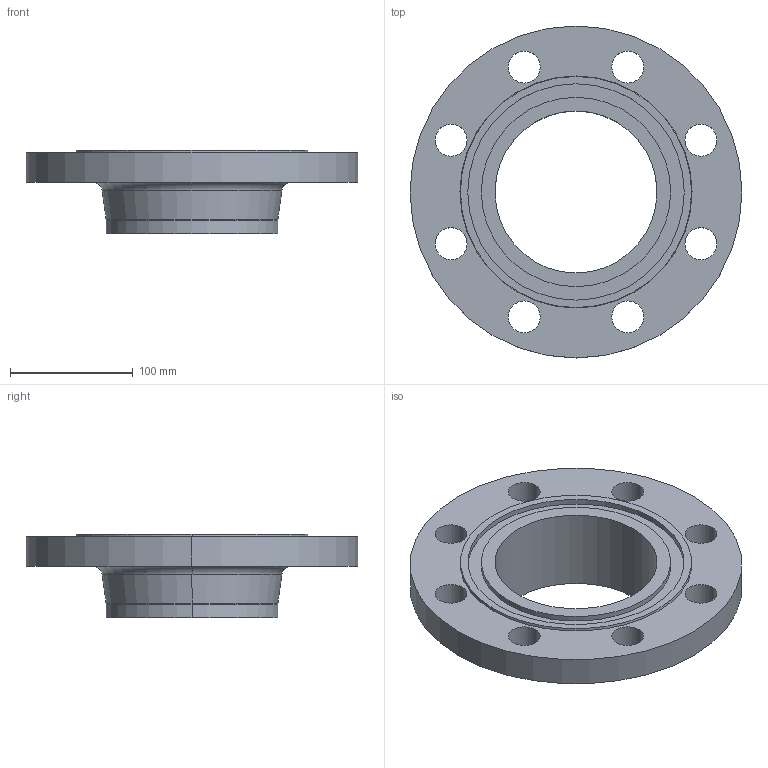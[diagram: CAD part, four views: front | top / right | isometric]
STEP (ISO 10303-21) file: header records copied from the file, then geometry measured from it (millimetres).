
FILE_DESCRIPTION (( 'STEP AP214' ), '1' );
FILE_NAME ('PN40 DN125 Type 11 - Type D Face.STEP', '2019-01-02T19:24:39', ( '' ), ( '' ), 'SwSTEP 2.0', 'SolidWorks 2019', '' );
FILE_SCHEMA (( 'AUTOMOTIVE_DESIGN' ));
Length unit declared in the file: millimetre
Products named in the file (1): PN40 DN125 Type 11 - Type D Face
Bounding box: 270 x 270 x 68 mm (x, y, z)
Volume: 1052883.6 mm3; surface area: 164549.3 mm2
Topology: 1 solids, 1 shells, 40 faces, 96 edges, 62 vertices
Faces by surface type: cylinder 26, plane 6, torus 4, cone 4
Entity records: 1268 total; most frequent: DIRECTION 244, CARTESIAN_POINT 199, ORIENTED_EDGE 192, AXIS2_PLACEMENT_3D 107, EDGE_CURVE 96, CIRCLE 66, VERTEX_POINT 62, EDGE_LOOP 62
